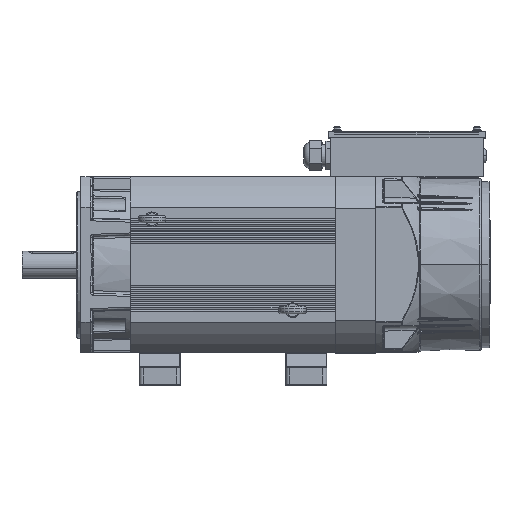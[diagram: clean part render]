
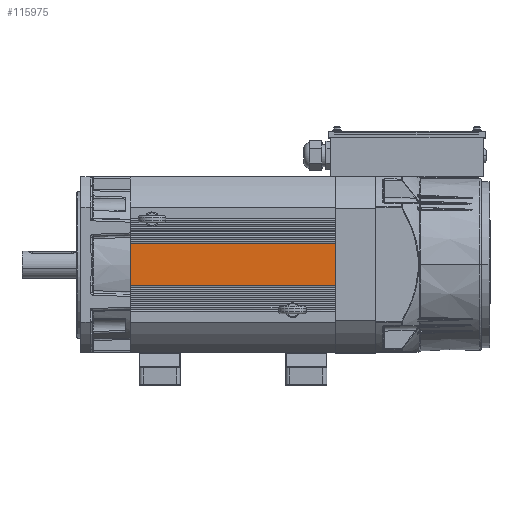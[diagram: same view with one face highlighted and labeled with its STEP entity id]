
A CAD part, top view. The second image highlights one B-rep face of the part: STEP entity #115975.
In plain terms, the highlighted planar face has unit normal (0, 0, 1) as drawn and (0, 1, 0) by its records, which use the part's own axes.
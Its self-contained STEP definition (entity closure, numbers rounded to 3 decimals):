
#660 = EDGE_CURVE ( 'NONE', #102505, #85638, #64893, .T. ) ;
#7283 = EDGE_CURVE ( 'NONE', #32761, #85638, #99837, .T. ) ;
#7942 = EDGE_LOOP ( 'NONE', ( #77355, #8516, #9855, #47102 ) ) ;
#8516 = ORIENTED_EDGE ( 'NONE', *, *, #60070, .T. ) ;
#9855 = ORIENTED_EDGE ( 'NONE', *, *, #660, .T. ) ;
#10705 = VECTOR ( 'NONE', #35734, 1000. ) ;
#13590 = CARTESIAN_POINT ( 'NONE',  ( 21.5, 90., 105. ) ) ;
#17821 = AXIS2_PLACEMENT_3D ( 'NONE', #67518, #109592, #76195 ) ;
#28688 = LINE ( 'NONE', #91531, #60480 ) ;
#30530 = VERTEX_POINT ( 'NONE', #34736 ) ;
#32761 = VERTEX_POINT ( 'NONE', #114255 ) ;
#34736 = CARTESIAN_POINT ( 'NONE',  ( 21.5, 90., -105. ) ) ;
#35734 = DIRECTION ( 'NONE',  ( 0., 0., 1. ) ) ;
#44707 = DIRECTION ( 'NONE',  ( 0., 0., 1. ) ) ;
#47102 = ORIENTED_EDGE ( 'NONE', *, *, #7283, .F. ) ;
#51566 = PLANE ( 'NONE',  #17821 ) ;
#57083 = VECTOR ( 'NONE', #44707, 1000. ) ;
#60070 = EDGE_CURVE ( 'NONE', #30530, #102505, #28688, .T. ) ;
#60480 = VECTOR ( 'NONE', #90214, 1000. ) ;
#64142 = DIRECTION ( 'NONE',  ( -1., 0., 0. ) ) ;
#64893 = LINE ( 'NONE', #85095, #10705 ) ;
#67518 = CARTESIAN_POINT ( 'NONE',  ( 58.79, 90., 105. ) ) ;
#73028 = CARTESIAN_POINT ( 'NONE',  ( 58.79, 90., 105. ) ) ;
#75892 = FACE_OUTER_BOUND ( 'NONE', #7942, .T. ) ;
#76195 = DIRECTION ( 'NONE',  ( 1., 0., 0. ) ) ;
#77355 = ORIENTED_EDGE ( 'NONE', *, *, #104750, .F. ) ;
#83705 = CARTESIAN_POINT ( 'NONE',  ( -21.5, 90., 105. ) ) ;
#84074 = LINE ( 'NONE', #13590, #57083 ) ;
#85095 = CARTESIAN_POINT ( 'NONE',  ( -21.5, 90., 105. ) ) ;
#85638 = VERTEX_POINT ( 'NONE', #83705 ) ;
#90214 = DIRECTION ( 'NONE',  ( -1., 0., 0. ) ) ;
#91531 = CARTESIAN_POINT ( 'NONE',  ( 58.79, 90., -105. ) ) ;
#99837 = LINE ( 'NONE', #73028, #122181 ) ;
#102505 = VERTEX_POINT ( 'NONE', #107361 ) ;
#104750 = EDGE_CURVE ( 'NONE', #30530, #32761, #84074, .T. ) ;
#107361 = CARTESIAN_POINT ( 'NONE',  ( -21.5, 90., -105. ) ) ;
#109592 = DIRECTION ( 'NONE',  ( 0., -1., 0. ) ) ;
#114255 = CARTESIAN_POINT ( 'NONE',  ( 21.5, 90., 105. ) ) ;
#115975 = ADVANCED_FACE ( 'NONE', ( #75892 ), #51566, .F. ) ;
#122181 = VECTOR ( 'NONE', #64142, 1000. ) ;
